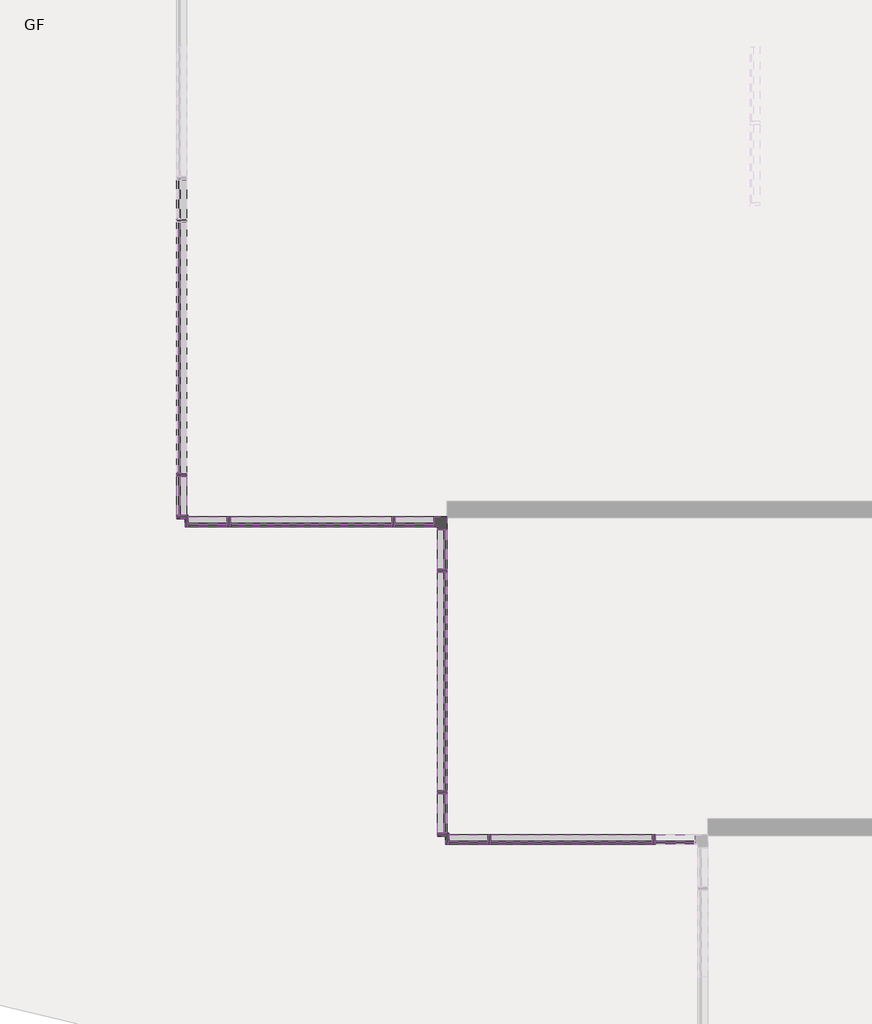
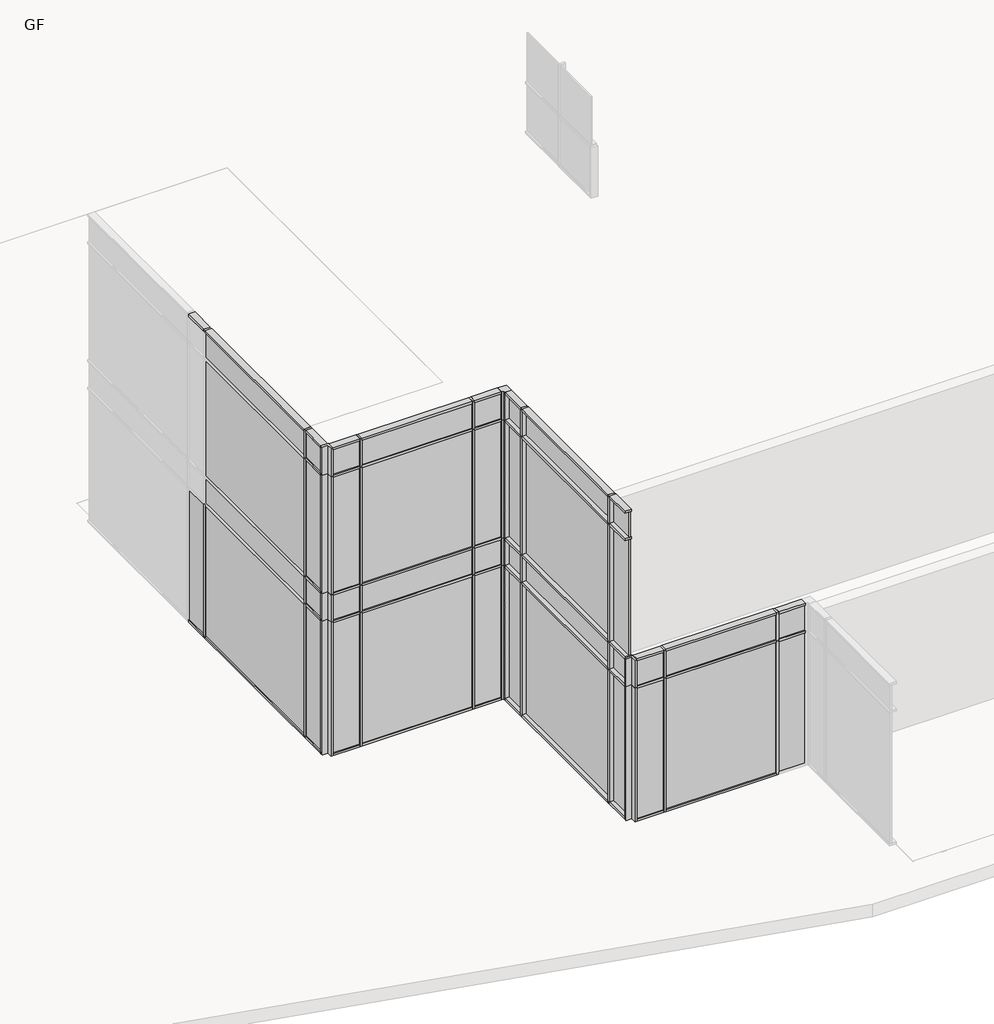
# One storey, part 1 of 23: 82 members, 39 plates.
"""IFC4 building model written with IfcOpenShell, lengths in millimetres."""

from ifc_helpers import new_model, si_unit, origin, place, context, project, spatial, transform, mapped, element, save
from components import l_corner_mullion_l_mullion_1_2b73dffd, l_corner_mullion_l_mullion_1_72fff0f1, l_corner_mullion_l_mullion_1_8c2c0706, l_corner_mullion_l_mullion_1_b99bcffd, rectangular_mullion_50_x_150mm_64d38db8, rectangular_mullion_50_x_150mm_68b3818a, rectangular_mullion_50_x_150mm_0240cd64, rectangular_mullion_50_x_150mm_24ac0887, rectangular_mullion_50_x_150mm_e0b7c4f8, rectangular_mullion_50_x_150mm_9e0f1e24, rectangular_mullion_50_x_150mm_7d543e93, rectangular_mullion_50_x_150mm_edc7ebc1, rectangular_mullion_50_x_150mm_86a57cfb, rectangular_mullion_50_x_150mm_d11e3bb4, rectangular_mullion_50_x_150mm_eae7d4bc, v_corner_mullion_v_mullion_1_f045c5c2, v_corner_mullion_v_mullion_1_ba732962, v_corner_mullion_v_mullion_1_1f1fc5c4, v_corner_mullion_v_mullion_1_6526e4b7, v_corner_mullion_v_mullion_1_71accf86, v_corner_mullion_v_mullion_1_7bbb4fbd, system_panel_glazed_24812111, system_panel_glazed_e5239730, system_panel_glazed_8999bfa8, system_panel_glazed_6b022301, system_panel_glazed_c57c7bc0, system_panel_glazed_b815d245, system_panel_glazed_2828cf0c, system_panel_glazed_a7232eb8, system_panel_glazed_7da84705, system_panel_glazed_c925beaf, system_panel_glazed_536b5d24, system_panel_glazed_50f777d6

model = new_model("IFC4")

# Units and contexts
model_context = context("Model", 3, world=origin())
ifc_project = project(units=[si_unit("LENGTHUNIT", "METRE", prefix="MILLI")], contexts=[model_context])

# Site, building, storey
site = spatial("IfcSite", under=ifc_project)
building = spatial("IfcBuilding", under=site)
storey = spatial("IfcBuildingStorey", under=building, Name="GF", Elevation=900.0)

# Members
placement = place(None, origin())
l_corner_mullion_l_mullion_1_shape = l_corner_mullion_l_mullion_1_2b73dffd(model_context)
element("IfcMember", 1, ObjectType="L Corner Mullion : L Mullion 1", at=placement, inside=storey, context=model_context, shape_type="MappedRepresentation", body=[
    mapped(l_corner_mullion_l_mullion_1_shape, transform((-35612.5865899, -16297.6148653, 8200.0), x_axis=(0.0, 1.0, 0.0), y_axis=(-1.0, 0.0, 0.0), z_axis=(0.0, 0.0, 1.0))),
])
l_corner_mullion_l_mullion_1_2_shape = l_corner_mullion_l_mullion_1_72fff0f1(model_context)
element("IfcMember", 2, ObjectType="L Corner Mullion : L Mullion 1", at=placement, inside=storey, context=model_context, shape_type="MappedRepresentation", body=[
    mapped(l_corner_mullion_l_mullion_1_2_shape, transform((-35612.5865899, -16297.6148653, 7525.0), x_axis=(0.0, 1.0, 0.0), y_axis=(-1.0, 0.0, 0.0), z_axis=(0.0, 0.0, 1.0))),
])
l_corner_mullion_l_mullion_1_3_shape = l_corner_mullion_l_mullion_1_8c2c0706(model_context)
element("IfcMember", 3, ObjectType="L Corner Mullion : L Mullion 1", at=placement, inside=storey, context=model_context, shape_type="MappedRepresentation", body=[
    mapped(l_corner_mullion_l_mullion_1_3_shape, transform((-35612.5865899, -16297.6148653, 4725.0), x_axis=(0.0, 1.0, 0.0), y_axis=(-1.0, 0.0, 0.0), z_axis=(0.0, 0.0, 1.0))),
])
l_corner_mullion_l_mullion_1_4_shape = l_corner_mullion_l_mullion_1_b99bcffd(model_context)
element("IfcMember", 4, ObjectType="L Corner Mullion : L Mullion 1", at=placement, inside=storey, context=model_context, shape_type="MappedRepresentation", body=[
    mapped(l_corner_mullion_l_mullion_1_4_shape, transform((-35612.5865899, -16297.6148653, 4075.0), x_axis=(0.0, 1.0, 0.0), y_axis=(-1.0, 0.0, 0.0), z_axis=(0.0, 0.0, 1.0))),
])
rectangular_mullion_50_x_150mm_shape = rectangular_mullion_50_x_150mm_64d38db8(model_context)
element("IfcMember", 5, ObjectType="Rectangular Mullion : 50 x 150mm", at=placement, inside=storey, context=model_context, shape_type="MappedRepresentation", body=[
    mapped(rectangular_mullion_50_x_150mm_shape, transform((-39512.5865899, -16297.6148653, 8200.0), x_axis=(0.0, 0.0, 1.0), y_axis=(0.0, 1.0, 0.0), z_axis=(-1.0, 0.0, 0.0))),
])
element("IfcMember", 6, ObjectType="Rectangular Mullion : 50 x 150mm", at=placement, inside=storey, context=model_context, shape_type="MappedRepresentation", body=[
    mapped(rectangular_mullion_50_x_150mm_shape, transform((-36337.5865899, -16297.6148653, 8200.0), x_axis=(0.0, 0.0, 1.0), y_axis=(0.0, 1.0, 0.0), z_axis=(-1.0, 0.0, 0.0))),
])
element("IfcMember", 7, ObjectType="Rectangular Mullion : 50 x 150mm", at=placement, inside=storey, context=model_context, shape_type="MappedRepresentation", body=[
    mapped(rectangular_mullion_50_x_150mm_shape, transform((-35612.5865899, -21072.6148653, 8200.0), x_axis=(0.0, 0.0, 1.0), y_axis=(-1.0, 0.0, 0.0), z_axis=(0.0, -1.0, 0.0))),
])
element("IfcMember", 8, ObjectType="Rectangular Mullion : 50 x 150mm", at=placement, inside=storey, context=model_context, shape_type="MappedRepresentation", body=[
    mapped(rectangular_mullion_50_x_150mm_shape, transform((-35512.5865899, -21172.6148653, 4750.0), x_axis=(0.0, 0.0, 1.0), y_axis=(0.0, 1.0, 0.0), z_axis=(-1.0, 0.0, 0.0))),
])
element("IfcMember", 9, ObjectType="Rectangular Mullion : 50 x 150mm", at=placement, inside=storey, context=model_context, shape_type="MappedRepresentation", body=[
    mapped(rectangular_mullion_50_x_150mm_shape, transform((-32337.5865899, -21172.6148653, 4750.0), x_axis=(0.0, 0.0, 1.0), y_axis=(0.0, 1.0, 0.0), z_axis=(-1.0, 0.0, 0.0))),
])
element("IfcMember", 10, ObjectType="Rectangular Mullion : 50 x 150mm", at=placement, inside=storey, context=model_context, shape_type="MappedRepresentation", body=[
    mapped(rectangular_mullion_50_x_150mm_shape, transform((-35612.5865899, -17022.6148653, 8200.0), x_axis=(0.0, 0.0, 1.0), y_axis=(-1.0, 0.0, 0.0), z_axis=(0.0, -1.0, 0.0))),
])
element("IfcMember", 11, ObjectType="Rectangular Mullion : 50 x 150mm", at=placement, inside=storey, context=model_context, shape_type="MappedRepresentation", body=[
    mapped(rectangular_mullion_50_x_150mm_shape, transform((-35737.5865899, -16297.6148653, 900.0), x_axis=(0.0, 0.0, -1.0), y_axis=(0.0, 1.0, 0.0), z_axis=(1.0, 0.0, 0.0))),
])
element("IfcMember", 12, ObjectType="Rectangular Mullion : 50 x 150mm", at=placement, inside=storey, context=model_context, shape_type="MappedRepresentation", body=[
    mapped(rectangular_mullion_50_x_150mm_shape, transform((-38912.5865899, -16297.6148653, 900.0), x_axis=(0.0, 0.0, -1.0), y_axis=(0.0, 1.0, 0.0), z_axis=(1.0, 0.0, 0.0))),
])
element("IfcMember", 13, ObjectType="Rectangular Mullion : 50 x 150mm", at=placement, inside=storey, context=model_context, shape_type="MappedRepresentation", body=[
    mapped(rectangular_mullion_50_x_150mm_shape, transform((-35612.5865899, -16422.6148653, 900.0), x_axis=(0.0, 0.0, -1.0), y_axis=(-1.0, 0.0, 0.0), z_axis=(0.0, 1.0, 0.0))),
])
element("IfcMember", 14, ObjectType="Rectangular Mullion : 50 x 150mm", at=placement, inside=storey, context=model_context, shape_type="MappedRepresentation", body=[
    mapped(rectangular_mullion_50_x_150mm_shape, transform((-34912.5865899, -21172.6148653, 900.0), x_axis=(0.0, 0.0, -1.0), y_axis=(0.0, 1.0, 0.0), z_axis=(1.0, 0.0, 0.0))),
])
element("IfcMember", 15, ObjectType="Rectangular Mullion : 50 x 150mm", at=placement, inside=storey, context=model_context, shape_type="MappedRepresentation", body=[
    mapped(rectangular_mullion_50_x_150mm_shape, transform((-35612.5865899, -20472.6148653, 900.0), x_axis=(0.0, 0.0, -1.0), y_axis=(-1.0, 0.0, 0.0), z_axis=(0.0, 1.0, 0.0))),
])
rectangular_mullion_50_x_150mm_2_shape = rectangular_mullion_50_x_150mm_68b3818a(model_context)
element("IfcMember", 16, ObjectType="Rectangular Mullion : 50 x 150mm", at=placement, inside=storey, context=model_context, shape_type="MappedRepresentation", body=[
    mapped(rectangular_mullion_50_x_150mm_2_shape, transform((-39612.5865899, -15597.6148653, 7525.0), x_axis=(0.0, 0.0, 1.0), y_axis=(1.0, 0.0, 0.0), z_axis=(0.0, 1.0, 0.0))),
])
element("IfcMember", 17, ObjectType="Rectangular Mullion : 50 x 150mm", at=placement, inside=storey, context=model_context, shape_type="MappedRepresentation", body=[
    mapped(rectangular_mullion_50_x_150mm_2_shape, transform((-39612.5865899, -15597.6148653, 4725.0), x_axis=(0.0, 0.0, 1.0), y_axis=(1.0, 0.0, 0.0), z_axis=(0.0, 1.0, 0.0))),
])
element("IfcMember", 18, ObjectType="Rectangular Mullion : 50 x 150mm", at=placement, inside=storey, context=model_context, shape_type="MappedRepresentation", body=[
    mapped(rectangular_mullion_50_x_150mm_2_shape, transform((-39612.5865899, -15597.6148653, 4075.0), x_axis=(0.0, 0.0, 1.0), y_axis=(1.0, 0.0, 0.0), z_axis=(0.0, 1.0, 0.0))),
])
element("IfcMember", 19, ObjectType="Rectangular Mullion : 50 x 150mm", at=placement, inside=storey, context=model_context, shape_type="MappedRepresentation", body=[
    mapped(rectangular_mullion_50_x_150mm_2_shape, transform((-36337.5865899, -16297.6148653, 7525.0), x_axis=(0.0, 0.0, 1.0), y_axis=(0.0, 1.0, 0.0), z_axis=(-1.0, 0.0, 0.0))),
])
element("IfcMember", 20, ObjectType="Rectangular Mullion : 50 x 150mm", at=placement, inside=storey, context=model_context, shape_type="MappedRepresentation", body=[
    mapped(rectangular_mullion_50_x_150mm_2_shape, transform((-39512.5865899, -16297.6148653, 7525.0), x_axis=(0.0, 0.0, 1.0), y_axis=(0.0, 1.0, 0.0), z_axis=(-1.0, 0.0, 0.0))),
])
element("IfcMember", 21, ObjectType="Rectangular Mullion : 50 x 150mm", at=placement, inside=storey, context=model_context, shape_type="MappedRepresentation", body=[
    mapped(rectangular_mullion_50_x_150mm_2_shape, transform((-36337.5865899, -16297.6148653, 4725.0), x_axis=(0.0, 0.0, 1.0), y_axis=(0.0, 1.0, 0.0), z_axis=(-1.0, 0.0, 0.0))),
])
element("IfcMember", 22, ObjectType="Rectangular Mullion : 50 x 150mm", at=placement, inside=storey, context=model_context, shape_type="MappedRepresentation", body=[
    mapped(rectangular_mullion_50_x_150mm_2_shape, transform((-39512.5865899, -16297.6148653, 4725.0), x_axis=(0.0, 0.0, 1.0), y_axis=(0.0, 1.0, 0.0), z_axis=(-1.0, 0.0, 0.0))),
])
element("IfcMember", 23, ObjectType="Rectangular Mullion : 50 x 150mm", at=placement, inside=storey, context=model_context, shape_type="MappedRepresentation", body=[
    mapped(rectangular_mullion_50_x_150mm_2_shape, transform((-36337.5865899, -16297.6148653, 4075.0), x_axis=(0.0, 0.0, 1.0), y_axis=(0.0, 1.0, 0.0), z_axis=(-1.0, 0.0, 0.0))),
])
element("IfcMember", 24, ObjectType="Rectangular Mullion : 50 x 150mm", at=placement, inside=storey, context=model_context, shape_type="MappedRepresentation", body=[
    mapped(rectangular_mullion_50_x_150mm_2_shape, transform((-39512.5865899, -16297.6148653, 4075.0), x_axis=(0.0, 0.0, 1.0), y_axis=(0.0, 1.0, 0.0), z_axis=(-1.0, 0.0, 0.0))),
])
element("IfcMember", 25, ObjectType="Rectangular Mullion : 50 x 150mm", at=placement, inside=storey, context=model_context, shape_type="MappedRepresentation", body=[
    mapped(rectangular_mullion_50_x_150mm_2_shape, transform((-32337.5865899, -21172.6148653, 4075.0), x_axis=(0.0, 0.0, 1.0), y_axis=(0.0, 1.0, 0.0), z_axis=(-1.0, 0.0, 0.0))),
])
element("IfcMember", 26, ObjectType="Rectangular Mullion : 50 x 150mm", at=placement, inside=storey, context=model_context, shape_type="MappedRepresentation", body=[
    mapped(rectangular_mullion_50_x_150mm_2_shape, transform((-35612.5865899, -17022.6148653, 4725.0), x_axis=(0.0, 0.0, 1.0), y_axis=(-1.0, 0.0, 0.0), z_axis=(0.0, -1.0, 0.0))),
])
element("IfcMember", 27, ObjectType="Rectangular Mullion : 50 x 150mm", at=placement, inside=storey, context=model_context, shape_type="MappedRepresentation", body=[
    mapped(rectangular_mullion_50_x_150mm_2_shape, transform((-35612.5865899, -17022.6148653, 4075.0), x_axis=(0.0, 0.0, 1.0), y_axis=(-1.0, 0.0, 0.0), z_axis=(0.0, -1.0, 0.0))),
])
element("IfcMember", 28, ObjectType="Rectangular Mullion : 50 x 150mm", at=placement, inside=storey, context=model_context, shape_type="MappedRepresentation", body=[
    mapped(rectangular_mullion_50_x_150mm_2_shape, transform((-35512.5865899, -21172.6148653, 4075.0), x_axis=(0.0, 0.0, 1.0), y_axis=(0.0, 1.0, 0.0), z_axis=(-1.0, 0.0, 0.0))),
])
element("IfcMember", 29, ObjectType="Rectangular Mullion : 50 x 150mm", at=placement, inside=storey, context=model_context, shape_type="MappedRepresentation", body=[
    mapped(rectangular_mullion_50_x_150mm_2_shape, transform((-35612.5865899, -21072.6148653, 4075.0), x_axis=(0.0, 0.0, 1.0), y_axis=(-1.0, 0.0, 0.0), z_axis=(0.0, -1.0, 0.0))),
])
element("IfcMember", 30, ObjectType="Rectangular Mullion : 50 x 150mm", at=placement, inside=storey, context=model_context, shape_type="MappedRepresentation", body=[
    mapped(rectangular_mullion_50_x_150mm_2_shape, transform((-35612.5865899, -21072.6148653, 4725.0), x_axis=(0.0, 0.0, 1.0), y_axis=(-1.0, 0.0, 0.0), z_axis=(0.0, -1.0, 0.0))),
])
element("IfcMember", 31, ObjectType="Rectangular Mullion : 50 x 150mm", at=placement, inside=storey, context=model_context, shape_type="MappedRepresentation", body=[
    mapped(rectangular_mullion_50_x_150mm_2_shape, transform((-35612.5865899, -17022.6148653, 7525.0), x_axis=(0.0, 0.0, 1.0), y_axis=(-1.0, 0.0, 0.0), z_axis=(0.0, -1.0, 0.0))),
])
element("IfcMember", 32, ObjectType="Rectangular Mullion : 50 x 150mm", at=placement, inside=storey, context=model_context, shape_type="MappedRepresentation", body=[
    mapped(rectangular_mullion_50_x_150mm_2_shape, transform((-35612.5865899, -21072.6148653, 7525.0), x_axis=(0.0, 0.0, 1.0), y_axis=(-1.0, 0.0, 0.0), z_axis=(0.0, -1.0, 0.0))),
])
rectangular_mullion_50_x_150mm_3_shape = rectangular_mullion_50_x_150mm_0240cd64(model_context)
element("IfcMember", 33, ObjectType="Rectangular Mullion : 50 x 150mm", at=placement, inside=storey, context=model_context, shape_type="MappedRepresentation", body=[
    mapped(rectangular_mullion_50_x_150mm_3_shape, transform((-38862.5865899, -16297.6148653, 8200.0), x_axis=(0.0, 0.0, 1.0), y_axis=(0.0, 1.0, 0.0), z_axis=(-1.0, 0.0, 0.0))),
])
element("IfcMember", 34, ObjectType="Rectangular Mullion : 50 x 150mm", at=placement, inside=storey, context=model_context, shape_type="MappedRepresentation", body=[
    mapped(rectangular_mullion_50_x_150mm_3_shape, transform((-34862.5865899, -21172.6148653, 4750.0), x_axis=(0.0, 0.0, 1.0), y_axis=(0.0, 1.0, 0.0), z_axis=(-1.0, 0.0, 0.0))),
])
element("IfcMember", 35, ObjectType="Rectangular Mullion : 50 x 150mm", at=placement, inside=storey, context=model_context, shape_type="MappedRepresentation", body=[
    mapped(rectangular_mullion_50_x_150mm_3_shape, transform((-36387.5865899, -16297.6148653, 900.0), x_axis=(0.0, 0.0, -1.0), y_axis=(0.0, 1.0, 0.0), z_axis=(1.0, 0.0, 0.0))),
])
element("IfcMember", 36, ObjectType="Rectangular Mullion : 50 x 150mm", at=placement, inside=storey, context=model_context, shape_type="MappedRepresentation", body=[
    mapped(rectangular_mullion_50_x_150mm_3_shape, transform((-32387.5865899, -21172.6148653, 900.0), x_axis=(0.0, 0.0, -1.0), y_axis=(0.0, 1.0, 0.0), z_axis=(1.0, 0.0, 0.0))),
])
rectangular_mullion_50_x_150mm_4_shape = rectangular_mullion_50_x_150mm_24ac0887(model_context)
element("IfcMember", 37, ObjectType="Rectangular Mullion : 50 x 150mm", at=placement, inside=storey, context=model_context, shape_type="MappedRepresentation", body=[
    mapped(rectangular_mullion_50_x_150mm_4_shape, transform((-35612.5865899, -20422.6148653, 8200.0), x_axis=(0.0, 0.0, 1.0), y_axis=(-1.0, 0.0, 0.0), z_axis=(0.0, -1.0, 0.0))),
])
element("IfcMember", 38, ObjectType="Rectangular Mullion : 50 x 150mm", at=placement, inside=storey, context=model_context, shape_type="MappedRepresentation", body=[
    mapped(rectangular_mullion_50_x_150mm_4_shape, transform((-35612.5865899, -17072.6148653, 900.0), x_axis=(0.0, 0.0, -1.0), y_axis=(-1.0, 0.0, 0.0), z_axis=(0.0, 1.0, 0.0))),
])
element("IfcMember", 39, ObjectType="Rectangular Mullion : 50 x 150mm", at=placement, inside=storey, context=model_context, shape_type="MappedRepresentation", body=[
    mapped(rectangular_mullion_50_x_150mm_shape, transform((-39612.5865899, -15597.6148653, 8200.0), x_axis=(0.0, 0.0, 1.0), y_axis=(1.0, 0.0, 0.0), z_axis=(0.0, 1.0, 0.0))),
])
element("IfcMember", 40, ObjectType="Rectangular Mullion : 50 x 150mm", at=placement, inside=storey, context=model_context, shape_type="MappedRepresentation", body=[
    mapped(rectangular_mullion_50_x_150mm_shape, transform((-39612.5865899, -11047.6148653, 8200.0), x_axis=(0.0, 0.0, 1.0), y_axis=(1.0, 0.0, 0.0), z_axis=(0.0, 1.0, 0.0))),
])
element("IfcMember", 41, ObjectType="Rectangular Mullion : 50 x 150mm", at=placement, inside=storey, context=model_context, shape_type="MappedRepresentation", body=[
    mapped(rectangular_mullion_50_x_150mm_shape, transform((-39612.5865899, -16197.6148653, 900.0), x_axis=(0.0, 0.0, -1.0), y_axis=(1.0, 0.0, 0.0), z_axis=(0.0, -1.0, 0.0))),
])
element("IfcMember", 42, ObjectType="Rectangular Mullion : 50 x 150mm", at=placement, inside=storey, context=model_context, shape_type="MappedRepresentation", body=[
    mapped(rectangular_mullion_50_x_150mm_shape, transform((-39612.5865899, -11647.6148653, 900.0), x_axis=(0.0, 0.0, -1.0), y_axis=(1.0, 0.0, 0.0), z_axis=(0.0, -1.0, 0.0))),
])
rectangular_mullion_50_x_150mm_5_shape = rectangular_mullion_50_x_150mm_e0b7c4f8(model_context)
element("IfcMember", 43, ObjectType="Rectangular Mullion : 50 x 150mm", at=placement, inside=storey, context=model_context, shape_type="MappedRepresentation", body=[
    mapped(rectangular_mullion_50_x_150mm_5_shape, transform((-39612.5865899, -15547.6148653, 900.0), x_axis=(0.0, 0.0, -1.0), y_axis=(1.0, 0.0, 0.0), z_axis=(0.0, -1.0, 0.0))),
])
element("IfcMember", 44, ObjectType="Rectangular Mullion : 50 x 150mm", at=placement, inside=storey, context=model_context, shape_type="MappedRepresentation", body=[
    mapped(rectangular_mullion_50_x_150mm_5_shape, transform((-39612.5865899, -11697.6148653, 8200.0), x_axis=(0.0, 0.0, 1.0), y_axis=(1.0, 0.0, 0.0), z_axis=(0.0, 1.0, 0.0))),
])
rectangular_mullion_50_x_150mm_6_shape = rectangular_mullion_50_x_150mm_9e0f1e24(model_context)
element("IfcMember", 45, ObjectType="Rectangular Mullion : 50 x 150mm", at=placement, inside=storey, context=model_context, shape_type="MappedRepresentation", body=[
    mapped(rectangular_mullion_50_x_150mm_6_shape, transform((-39612.5865899, -15572.6148653, 7525.0), x_axis=(0.0, 1.0, 0.0), y_axis=(1.0, 0.0, 0.0), z_axis=(0.0, 0.0, -1.0))),
])
element("IfcMember", 46, ObjectType="Rectangular Mullion : 50 x 150mm", at=placement, inside=storey, context=model_context, shape_type="MappedRepresentation", body=[
    mapped(rectangular_mullion_50_x_150mm_6_shape, transform((-36362.5865899, -16297.6148653, 7525.0), x_axis=(-1.0, 0.0, 0.0), y_axis=(0.0, 1.0, 0.0), z_axis=(0.0, 0.0, -1.0))),
])
element("IfcMember", 47, ObjectType="Rectangular Mullion : 50 x 150mm", at=placement, inside=storey, context=model_context, shape_type="MappedRepresentation", body=[
    mapped(rectangular_mullion_50_x_150mm_6_shape, transform((-38887.5865899, -16297.6148653, 7525.0), x_axis=(-1.0, 0.0, 0.0), y_axis=(0.0, 1.0, 0.0), z_axis=(0.0, 0.0, -1.0))),
])
element("IfcMember", 48, ObjectType="Rectangular Mullion : 50 x 150mm", at=placement, inside=storey, context=model_context, shape_type="MappedRepresentation", body=[
    mapped(rectangular_mullion_50_x_150mm_6_shape, transform((-34887.5865899, -21172.6148653, 4075.0), x_axis=(-1.0, 0.0, 0.0), y_axis=(0.0, 1.0, 0.0), z_axis=(0.0, 0.0, -1.0))),
])
element("IfcMember", 49, ObjectType="Rectangular Mullion : 50 x 150mm", at=placement, inside=storey, context=model_context, shape_type="MappedRepresentation", body=[
    mapped(rectangular_mullion_50_x_150mm_6_shape, transform((-32362.5865899, -21172.6148653, 4075.0), x_axis=(-1.0, 0.0, 0.0), y_axis=(0.0, 1.0, 0.0), z_axis=(0.0, 0.0, -1.0))),
])
element("IfcMember", 50, ObjectType="Rectangular Mullion : 50 x 150mm", at=placement, inside=storey, context=model_context, shape_type="MappedRepresentation", body=[
    mapped(rectangular_mullion_50_x_150mm_6_shape, transform((-35612.5865899, -17047.6148653, 7525.0), x_axis=(0.0, -1.0, 0.0), y_axis=(-1.0, 0.0, 0.0), z_axis=(0.0, 0.0, -1.0))),
])
element("IfcMember", 51, ObjectType="Rectangular Mullion : 50 x 150mm", at=placement, inside=storey, context=model_context, shape_type="MappedRepresentation", body=[
    mapped(rectangular_mullion_50_x_150mm_6_shape, transform((-35612.5865899, -20447.6148653, 7525.0), x_axis=(0.0, -1.0, 0.0), y_axis=(-1.0, 0.0, 0.0), z_axis=(0.0, 0.0, -1.0))),
])
rectangular_mullion_50_x_150mm_7_shape = rectangular_mullion_50_x_150mm_7d543e93(model_context)
element("IfcMember", 52, ObjectType="Rectangular Mullion : 50 x 150mm", at=placement, inside=storey, context=model_context, shape_type="MappedRepresentation", body=[
    mapped(rectangular_mullion_50_x_150mm_7_shape, transform((-39612.5865899, -15572.6148653, 4075.0), x_axis=(0.0, 1.0, 0.0), y_axis=(1.0, 0.0, 0.0), z_axis=(0.0, 0.0, -1.0))),
])
element("IfcMember", 53, ObjectType="Rectangular Mullion : 50 x 150mm", at=placement, inside=storey, context=model_context, shape_type="MappedRepresentation", body=[
    mapped(rectangular_mullion_50_x_150mm_7_shape, transform((-36362.5865899, -16297.6148653, 4075.0), x_axis=(-1.0, 0.0, 0.0), y_axis=(0.0, 1.0, 0.0), z_axis=(0.0, 0.0, -1.0))),
])
element("IfcMember", 54, ObjectType="Rectangular Mullion : 50 x 150mm", at=placement, inside=storey, context=model_context, shape_type="MappedRepresentation", body=[
    mapped(rectangular_mullion_50_x_150mm_7_shape, transform((-38887.5865899, -16297.6148653, 4075.0), x_axis=(-1.0, 0.0, 0.0), y_axis=(0.0, 1.0, 0.0), z_axis=(0.0, 0.0, -1.0))),
])
element("IfcMember", 55, ObjectType="Rectangular Mullion : 50 x 150mm", at=placement, inside=storey, context=model_context, shape_type="MappedRepresentation", body=[
    mapped(rectangular_mullion_50_x_150mm_7_shape, transform((-35612.5865899, -20447.6148653, 4075.0), x_axis=(0.0, -1.0, 0.0), y_axis=(-1.0, 0.0, 0.0), z_axis=(0.0, 0.0, -1.0))),
])
element("IfcMember", 56, ObjectType="Rectangular Mullion : 50 x 150mm", at=placement, inside=storey, context=model_context, shape_type="MappedRepresentation", body=[
    mapped(rectangular_mullion_50_x_150mm_7_shape, transform((-35612.5865899, -17047.6148653, 4075.0), x_axis=(0.0, -1.0, 0.0), y_axis=(-1.0, 0.0, 0.0), z_axis=(0.0, 0.0, -1.0))),
])
rectangular_mullion_50_x_150mm_8_shape = rectangular_mullion_50_x_150mm_edc7ebc1(model_context)
element("IfcMember", 57, ObjectType="Rectangular Mullion : 50 x 150mm", at=placement, inside=storey, context=model_context, shape_type="MappedRepresentation", body=[
    mapped(rectangular_mullion_50_x_150mm_8_shape, transform((-38862.5865899, -16297.6148653, 7525.0), x_axis=(0.0, 0.0, 1.0), y_axis=(0.0, 1.0, 0.0), z_axis=(-1.0, 0.0, 0.0))),
])
element("IfcMember", 58, ObjectType="Rectangular Mullion : 50 x 150mm", at=placement, inside=storey, context=model_context, shape_type="MappedRepresentation", body=[
    mapped(rectangular_mullion_50_x_150mm_8_shape, transform((-38862.5865899, -16297.6148653, 4725.0), x_axis=(0.0, 0.0, 1.0), y_axis=(0.0, 1.0, 0.0), z_axis=(-1.0, 0.0, 0.0))),
])
element("IfcMember", 59, ObjectType="Rectangular Mullion : 50 x 150mm", at=placement, inside=storey, context=model_context, shape_type="MappedRepresentation", body=[
    mapped(rectangular_mullion_50_x_150mm_8_shape, transform((-38862.5865899, -16297.6148653, 4075.0), x_axis=(0.0, 0.0, 1.0), y_axis=(0.0, 1.0, 0.0), z_axis=(-1.0, 0.0, 0.0))),
])
element("IfcMember", 60, ObjectType="Rectangular Mullion : 50 x 150mm", at=placement, inside=storey, context=model_context, shape_type="MappedRepresentation", body=[
    mapped(rectangular_mullion_50_x_150mm_8_shape, transform((-34862.5865899, -21172.6148653, 4075.0), x_axis=(0.0, 0.0, 1.0), y_axis=(0.0, 1.0, 0.0), z_axis=(-1.0, 0.0, 0.0))),
])
rectangular_mullion_50_x_150mm_9_shape = rectangular_mullion_50_x_150mm_86a57cfb(model_context)
element("IfcMember", 61, ObjectType="Rectangular Mullion : 50 x 150mm", at=placement, inside=storey, context=model_context, shape_type="MappedRepresentation", body=[
    mapped(rectangular_mullion_50_x_150mm_9_shape, transform((-35612.5865899, -20422.6148653, 4075.0), x_axis=(0.0, 0.0, 1.0), y_axis=(-1.0, 0.0, 0.0), z_axis=(0.0, -1.0, 0.0))),
])
element("IfcMember", 62, ObjectType="Rectangular Mullion : 50 x 150mm", at=placement, inside=storey, context=model_context, shape_type="MappedRepresentation", body=[
    mapped(rectangular_mullion_50_x_150mm_9_shape, transform((-35612.5865899, -20422.6148653, 4725.0), x_axis=(0.0, 0.0, 1.0), y_axis=(-1.0, 0.0, 0.0), z_axis=(0.0, -1.0, 0.0))),
])
element("IfcMember", 63, ObjectType="Rectangular Mullion : 50 x 150mm", at=placement, inside=storey, context=model_context, shape_type="MappedRepresentation", body=[
    mapped(rectangular_mullion_50_x_150mm_9_shape, transform((-35612.5865899, -20422.6148653, 7525.0), x_axis=(0.0, 0.0, 1.0), y_axis=(-1.0, 0.0, 0.0), z_axis=(0.0, -1.0, 0.0))),
])
rectangular_mullion_50_x_150mm_10_shape = rectangular_mullion_50_x_150mm_d11e3bb4(model_context)
element("IfcMember", 64, ObjectType="Rectangular Mullion : 50 x 150mm", at=placement, inside=storey, context=model_context, shape_type="MappedRepresentation", body=[
    mapped(rectangular_mullion_50_x_150mm_10_shape, transform((-39612.5865899, -15572.6148653, 4725.0), x_axis=(0.0, 1.0, 0.0), y_axis=(1.0, 0.0, 0.0), z_axis=(0.0, 0.0, -1.0))),
])
element("IfcMember", 65, ObjectType="Rectangular Mullion : 50 x 150mm", at=placement, inside=storey, context=model_context, shape_type="MappedRepresentation", body=[
    mapped(rectangular_mullion_50_x_150mm_10_shape, transform((-36362.5865899, -16297.6148653, 4725.0), x_axis=(-1.0, 0.0, 0.0), y_axis=(0.0, 1.0, 0.0), z_axis=(0.0, 0.0, -1.0))),
])
element("IfcMember", 66, ObjectType="Rectangular Mullion : 50 x 150mm", at=placement, inside=storey, context=model_context, shape_type="MappedRepresentation", body=[
    mapped(rectangular_mullion_50_x_150mm_10_shape, transform((-38887.5865899, -16297.6148653, 4725.0), x_axis=(-1.0, 0.0, 0.0), y_axis=(0.0, 1.0, 0.0), z_axis=(0.0, 0.0, -1.0))),
])
element("IfcMember", 67, ObjectType="Rectangular Mullion : 50 x 150mm", at=placement, inside=storey, context=model_context, shape_type="MappedRepresentation", body=[
    mapped(rectangular_mullion_50_x_150mm_10_shape, transform((-35612.5865899, -20447.6148653, 4725.0), x_axis=(0.0, -1.0, 0.0), y_axis=(-1.0, 0.0, 0.0), z_axis=(0.0, 0.0, -1.0))),
])
element("IfcMember", 68, ObjectType="Rectangular Mullion : 50 x 150mm", at=placement, inside=storey, context=model_context, shape_type="MappedRepresentation", body=[
    mapped(rectangular_mullion_50_x_150mm_10_shape, transform((-35612.5865899, -17047.6148653, 4725.0), x_axis=(0.0, -1.0, 0.0), y_axis=(-1.0, 0.0, 0.0), z_axis=(0.0, 0.0, -1.0))),
])
rectangular_mullion_50_x_150mm_11_shape = rectangular_mullion_50_x_150mm_eae7d4bc(model_context)
element("IfcMember", 69, ObjectType="Rectangular Mullion : 50 x 150mm", at=placement, inside=storey, context=model_context, shape_type="MappedRepresentation", body=[
    mapped(rectangular_mullion_50_x_150mm_11_shape, transform((-39612.5865899, -15572.6148653, 900.0), x_axis=(0.0, 1.0, 0.0), y_axis=(1.0, 0.0, 0.0), z_axis=(0.0, 0.0, -1.0))),
])
element("IfcMember", 70, ObjectType="Rectangular Mullion : 50 x 150mm", at=placement, inside=storey, context=model_context, shape_type="MappedRepresentation", body=[
    mapped(rectangular_mullion_50_x_150mm_11_shape, transform((-39612.5865899, -11672.6148653, 900.0), x_axis=(0.0, 1.0, 0.0), y_axis=(1.0, 0.0, 0.0), z_axis=(0.0, 0.0, -1.0))),
])
element("IfcMember", 71, ObjectType="Rectangular Mullion : 50 x 150mm", at=placement, inside=storey, context=model_context, shape_type="MappedRepresentation", body=[
    mapped(rectangular_mullion_50_x_150mm_11_shape, transform((-38887.5865899, -16297.6148653, 900.0), x_axis=(-1.0, 0.0, 0.0), y_axis=(0.0, 1.0, 0.0), z_axis=(0.0, 0.0, -1.0))),
])
element("IfcMember", 72, ObjectType="Rectangular Mullion : 50 x 150mm", at=placement, inside=storey, context=model_context, shape_type="MappedRepresentation", body=[
    mapped(rectangular_mullion_50_x_150mm_11_shape, transform((-36362.5865899, -16297.6148653, 900.0), x_axis=(-1.0, 0.0, 0.0), y_axis=(0.0, 1.0, 0.0), z_axis=(0.0, 0.0, -1.0))),
])
element("IfcMember", 73, ObjectType="Rectangular Mullion : 50 x 150mm", at=placement, inside=storey, context=model_context, shape_type="MappedRepresentation", body=[
    mapped(rectangular_mullion_50_x_150mm_11_shape, transform((-34887.5865899, -21172.6148653, 900.0), x_axis=(-1.0, 0.0, 0.0), y_axis=(0.0, 1.0, 0.0), z_axis=(0.0, 0.0, -1.0))),
])
element("IfcMember", 74, ObjectType="Rectangular Mullion : 50 x 150mm", at=placement, inside=storey, context=model_context, shape_type="MappedRepresentation", body=[
    mapped(rectangular_mullion_50_x_150mm_11_shape, transform((-32362.5865899, -21172.6148653, 900.0), x_axis=(-1.0, 0.0, 0.0), y_axis=(0.0, 1.0, 0.0), z_axis=(0.0, 0.0, -1.0))),
])
element("IfcMember", 75, ObjectType="Rectangular Mullion : 50 x 150mm", at=placement, inside=storey, context=model_context, shape_type="MappedRepresentation", body=[
    mapped(rectangular_mullion_50_x_150mm_11_shape, transform((-35612.5865899, -20447.6148653, 900.0), x_axis=(0.0, -1.0, 0.0), y_axis=(-1.0, 0.0, 0.0), z_axis=(0.0, 0.0, -1.0))),
])
element("IfcMember", 76, ObjectType="Rectangular Mullion : 50 x 150mm", at=placement, inside=storey, context=model_context, shape_type="MappedRepresentation", body=[
    mapped(rectangular_mullion_50_x_150mm_11_shape, transform((-35612.5865899, -17047.6148653, 900.0), x_axis=(0.0, -1.0, 0.0), y_axis=(-1.0, 0.0, 0.0), z_axis=(0.0, 0.0, -1.0))),
])
v_corner_mullion_v_mullion_1_shape = v_corner_mullion_v_mullion_1_f045c5c2(model_context)
element("IfcMember", 77, ObjectType="V Corner Mullion : V Mullion 1", at=placement, inside=storey, context=model_context, shape_type="MappedRepresentation", body=[
    mapped(v_corner_mullion_v_mullion_1_shape, transform((-39612.5865899, -16297.6148653, 7525.0), x_axis=(-1.0, 0.0, 0.0), y_axis=(0.0, 1.0, 0.0), z_axis=(0.0, 0.0, -1.0))),
])
v_corner_mullion_v_mullion_1_2_shape = v_corner_mullion_v_mullion_1_ba732962(model_context)
element("IfcMember", 78, ObjectType="V Corner Mullion : V Mullion 1", at=placement, inside=storey, context=model_context, shape_type="MappedRepresentation", body=[
    mapped(v_corner_mullion_v_mullion_1_2_shape, transform((-39612.5865899, -16297.6148653, 4075.0), x_axis=(-1.0, 0.0, 0.0), y_axis=(0.0, 1.0, 0.0), z_axis=(0.0, 0.0, -1.0))),
])
v_corner_mullion_v_mullion_1_3_shape = v_corner_mullion_v_mullion_1_1f1fc5c4(model_context)
element("IfcMember", 79, ObjectType="V Corner Mullion : V Mullion 1", at=placement, inside=storey, context=model_context, shape_type="MappedRepresentation", body=[
    mapped(v_corner_mullion_v_mullion_1_3_shape, transform((-39612.5865899, -16297.6148653, 4725.0), x_axis=(-1.0, 0.0, 0.0), y_axis=(0.0, 1.0, 0.0), z_axis=(0.0, 0.0, -1.0))),
])
v_corner_mullion_v_mullion_1_4_shape = v_corner_mullion_v_mullion_1_6526e4b7(model_context)
element("IfcMember", 80, ObjectType="V Corner Mullion : V Mullion 1", at=placement, inside=storey, context=model_context, shape_type="MappedRepresentation", body=[
    mapped(v_corner_mullion_v_mullion_1_4_shape, transform((-35612.5865899, -21172.6148653, 900.0), x_axis=(0.0, -1.0, 0.0), y_axis=(-1.0, 0.0, 0.0), z_axis=(0.0, 0.0, -1.0))),
])
v_corner_mullion_v_mullion_1_5_shape = v_corner_mullion_v_mullion_1_71accf86(model_context)
element("IfcMember", 81, ObjectType="V Corner Mullion : V Mullion 1", at=placement, inside=storey, context=model_context, shape_type="MappedRepresentation", body=[
    mapped(v_corner_mullion_v_mullion_1_5_shape, transform((-35612.5865899, -21172.6148653, 4075.0), x_axis=(0.0, -1.0, 0.0), y_axis=(-1.0, 0.0, 0.0), z_axis=(0.0, 0.0, -1.0))),
])
v_corner_mullion_v_mullion_1_6_shape = v_corner_mullion_v_mullion_1_7bbb4fbd(model_context)
element("IfcMember", 82, ObjectType="V Corner Mullion : V Mullion 1", at=placement, inside=storey, context=model_context, shape_type="MappedRepresentation", body=[
    mapped(v_corner_mullion_v_mullion_1_6_shape, transform((-39612.5865899, -16297.6148653, 900.0), x_axis=(-1.0, 0.0, 0.0), y_axis=(0.0, 1.0, 0.0), z_axis=(0.0, 0.0, -1.0))),
])

# Plates
system_panel_glazed_shape = system_panel_glazed_24812111(model_context)
element("IfcPlate", 83, ObjectType="System Panel : Glazed", at=placement, inside=storey, context=model_context, shape_type="MappedRepresentation", body=[
    mapped(system_panel_glazed_shape, transform((-39612.5865899, -15897.6148653, 7550.0), x_axis=(0.0, 1.0, 0.0), y_axis=(-1.0, 0.0, 0.0), z_axis=(0.0, 0.0, 1.0))),
])
element("IfcPlate", 84, ObjectType="System Panel : Glazed", at=placement, inside=storey, context=model_context, shape_type="MappedRepresentation", body=[
    mapped(system_panel_glazed_shape, transform((-39612.5865899, -15897.6148653, 4100.0), x_axis=(0.0, 1.0, 0.0), y_axis=(-1.0, 0.0, 0.0), z_axis=(0.0, 0.0, 1.0))),
])
element("IfcPlate", 85, ObjectType="System Panel : Glazed", at=placement, inside=storey, context=model_context, shape_type="MappedRepresentation", body=[
    mapped(system_panel_glazed_shape, transform((-36037.5865899, -16297.6148653, 7550.0), x_axis=(-1.0, 0.0, 0.0), y_axis=(0.0, -1.0, 0.0), z_axis=(0.0, 0.0, 1.0))),
])
element("IfcPlate", 86, ObjectType="System Panel : Glazed", at=placement, inside=storey, context=model_context, shape_type="MappedRepresentation", body=[
    mapped(system_panel_glazed_shape, transform((-39212.5865899, -16297.6148653, 7550.0), x_axis=(-1.0, 0.0, 0.0), y_axis=(0.0, -1.0, 0.0), z_axis=(0.0, 0.0, 1.0))),
])
element("IfcPlate", 87, ObjectType="System Panel : Glazed", at=placement, inside=storey, context=model_context, shape_type="MappedRepresentation", body=[
    mapped(system_panel_glazed_shape, transform((-36037.5865899, -16297.6148653, 4100.0), x_axis=(-1.0, 0.0, 0.0), y_axis=(0.0, -1.0, 0.0), z_axis=(0.0, 0.0, 1.0))),
])
element("IfcPlate", 88, ObjectType="System Panel : Glazed", at=placement, inside=storey, context=model_context, shape_type="MappedRepresentation", body=[
    mapped(system_panel_glazed_shape, transform((-39212.5865899, -16297.6148653, 4100.0), x_axis=(-1.0, 0.0, 0.0), y_axis=(0.0, -1.0, 0.0), z_axis=(0.0, 0.0, 1.0))),
])
element("IfcPlate", 89, ObjectType="System Panel : Glazed", at=placement, inside=storey, context=model_context, shape_type="MappedRepresentation", body=[
    mapped(system_panel_glazed_shape, transform((-32037.5865899, -21172.6148653, 4100.0), x_axis=(-1.0, 0.0, 0.0), y_axis=(0.0, -1.0, 0.0), z_axis=(0.0, 0.0, 1.0))),
])
element("IfcPlate", 90, ObjectType="System Panel : Glazed", at=placement, inside=storey, context=model_context, shape_type="MappedRepresentation", body=[
    mapped(system_panel_glazed_shape, transform((-35612.5865899, -16722.6148653, 4100.0), x_axis=(0.0, -1.0, 0.0), y_axis=(1.0, 0.0, 0.0), z_axis=(0.0, 0.0, 1.0))),
])
element("IfcPlate", 91, ObjectType="System Panel : Glazed", at=placement, inside=storey, context=model_context, shape_type="MappedRepresentation", body=[
    mapped(system_panel_glazed_shape, transform((-35212.5865899, -21172.6148653, 4100.0), x_axis=(-1.0, 0.0, 0.0), y_axis=(0.0, -1.0, 0.0), z_axis=(0.0, 0.0, 1.0))),
])
element("IfcPlate", 92, ObjectType="System Panel : Glazed", at=placement, inside=storey, context=model_context, shape_type="MappedRepresentation", body=[
    mapped(system_panel_glazed_shape, transform((-35612.5865899, -20772.6148653, 4100.0), x_axis=(0.0, -1.0, 0.0), y_axis=(1.0, 0.0, 0.0), z_axis=(0.0, 0.0, 1.0))),
])
element("IfcPlate", 93, ObjectType="System Panel : Glazed", at=placement, inside=storey, context=model_context, shape_type="MappedRepresentation", body=[
    mapped(system_panel_glazed_shape, transform((-35612.5865899, -16722.6148653, 7550.0), x_axis=(0.0, -1.0, 0.0), y_axis=(1.0, 0.0, 0.0), z_axis=(0.0, 0.0, 1.0))),
])
element("IfcPlate", 94, ObjectType="System Panel : Glazed", at=placement, inside=storey, context=model_context, shape_type="MappedRepresentation", body=[
    mapped(system_panel_glazed_shape, transform((-35612.5865899, -20772.6148653, 7550.0), x_axis=(0.0, -1.0, 0.0), y_axis=(1.0, 0.0, 0.0), z_axis=(0.0, 0.0, 1.0))),
])
system_panel_glazed_2_shape = system_panel_glazed_e5239730(model_context)
element("IfcPlate", 95, ObjectType="System Panel : Glazed", at=placement, inside=storey, context=model_context, shape_type="MappedRepresentation", body=[
    mapped(system_panel_glazed_2_shape, transform((-39612.5865899, -15897.6148653, 4750.0), x_axis=(0.0, 1.0, 0.0), y_axis=(-1.0, 0.0, 0.0), z_axis=(0.0, 0.0, 1.0))),
])
element("IfcPlate", 96, ObjectType="System Panel : Glazed", at=placement, inside=storey, context=model_context, shape_type="MappedRepresentation", body=[
    mapped(system_panel_glazed_2_shape, transform((-36037.5865899, -16297.6148653, 4750.0), x_axis=(-1.0, 0.0, 0.0), y_axis=(0.0, -1.0, 0.0), z_axis=(0.0, 0.0, 1.0))),
])
element("IfcPlate", 97, ObjectType="System Panel : Glazed", at=placement, inside=storey, context=model_context, shape_type="MappedRepresentation", body=[
    mapped(system_panel_glazed_2_shape, transform((-39212.5865899, -16297.6148653, 4750.0), x_axis=(-1.0, 0.0, 0.0), y_axis=(0.0, -1.0, 0.0), z_axis=(0.0, 0.0, 1.0))),
])
element("IfcPlate", 98, ObjectType="System Panel : Glazed", at=placement, inside=storey, context=model_context, shape_type="MappedRepresentation", body=[
    mapped(system_panel_glazed_2_shape, transform((-35612.5865899, -16722.6148653, 4750.0), x_axis=(0.0, -1.0, 0.0), y_axis=(1.0, 0.0, 0.0), z_axis=(0.0, 0.0, 1.0))),
])
element("IfcPlate", 99, ObjectType="System Panel : Glazed", at=placement, inside=storey, context=model_context, shape_type="MappedRepresentation", body=[
    mapped(system_panel_glazed_2_shape, transform((-35612.5865899, -20772.6148653, 4750.0), x_axis=(0.0, -1.0, 0.0), y_axis=(1.0, 0.0, 0.0), z_axis=(0.0, 0.0, 1.0))),
])
system_panel_glazed_3_shape = system_panel_glazed_8999bfa8(model_context)
element("IfcPlate", 100, ObjectType="System Panel : Glazed", at=placement, inside=storey, context=model_context, shape_type="MappedRepresentation", body=[
    mapped(system_panel_glazed_3_shape, transform((-39612.5865899, -13622.6148653, 7550.0), x_axis=(0.0, 1.0, 0.0), y_axis=(-1.0, 0.0, 0.0), z_axis=(0.0, 0.0, 1.0))),
])
element("IfcPlate", 101, ObjectType="System Panel : Glazed", at=placement, inside=storey, context=model_context, shape_type="MappedRepresentation", body=[
    mapped(system_panel_glazed_3_shape, transform((-39612.5865899, -13622.6148653, 4100.0), x_axis=(0.0, 1.0, 0.0), y_axis=(-1.0, 0.0, 0.0), z_axis=(0.0, 0.0, 1.0))),
])
system_panel_glazed_4_shape = system_panel_glazed_6b022301(model_context)
element("IfcPlate", 102, ObjectType="System Panel : Glazed", at=placement, inside=storey, context=model_context, shape_type="MappedRepresentation", body=[
    mapped(system_panel_glazed_4_shape, transform((-37625.0865899, -16297.6148653, 7550.0), x_axis=(-1.0, 0.0, 0.0), y_axis=(0.0, -1.0, 0.0), z_axis=(0.0, 0.0, 1.0))),
])
element("IfcPlate", 103, ObjectType="System Panel : Glazed", at=placement, inside=storey, context=model_context, shape_type="MappedRepresentation", body=[
    mapped(system_panel_glazed_4_shape, transform((-37625.0865899, -16297.6148653, 4100.0), x_axis=(-1.0, 0.0, 0.0), y_axis=(0.0, -1.0, 0.0), z_axis=(0.0, 0.0, 1.0))),
])
element("IfcPlate", 104, ObjectType="System Panel : Glazed", at=placement, inside=storey, context=model_context, shape_type="MappedRepresentation", body=[
    mapped(system_panel_glazed_4_shape, transform((-33625.0865899, -21172.6148653, 4100.0), x_axis=(-1.0, 0.0, 0.0), y_axis=(0.0, -1.0, 0.0), z_axis=(0.0, 0.0, 1.0))),
])
system_panel_glazed_5_shape = system_panel_glazed_c57c7bc0(model_context)
element("IfcPlate", 105, ObjectType="System Panel : Glazed", at=placement, inside=storey, context=model_context, shape_type="MappedRepresentation", body=[
    mapped(system_panel_glazed_5_shape, transform((-35612.5865899, -18747.6148653, 4750.0), x_axis=(0.0, -1.0, 0.0), y_axis=(1.0, 0.0, 0.0), z_axis=(0.0, 0.0, 1.0))),
])
system_panel_glazed_6_shape = system_panel_glazed_b815d245(model_context)
element("IfcPlate", 106, ObjectType="System Panel : Glazed", at=placement, inside=storey, context=model_context, shape_type="MappedRepresentation", body=[
    mapped(system_panel_glazed_6_shape, transform((-35612.5865899, -18747.6148653, 4100.0), x_axis=(0.0, -1.0, 0.0), y_axis=(1.0, 0.0, 0.0), z_axis=(0.0, 0.0, 1.0))),
])
element("IfcPlate", 107, ObjectType="System Panel : Glazed", at=placement, inside=storey, context=model_context, shape_type="MappedRepresentation", body=[
    mapped(system_panel_glazed_6_shape, transform((-35612.5865899, -18747.6148653, 7550.0), x_axis=(0.0, -1.0, 0.0), y_axis=(1.0, 0.0, 0.0), z_axis=(0.0, 0.0, 1.0))),
])
system_panel_glazed_7_shape = system_panel_glazed_2828cf0c(model_context)
element("IfcPlate", 108, ObjectType="System Panel : Glazed", at=placement, inside=storey, context=model_context, shape_type="MappedRepresentation", body=[
    mapped(system_panel_glazed_7_shape, transform((-39612.5865899, -13622.6148653, 4750.0), x_axis=(0.0, 1.0, 0.0), y_axis=(-1.0, 0.0, 0.0), z_axis=(0.0, 0.0, 1.0))),
])
system_panel_glazed_8_shape = system_panel_glazed_a7232eb8(model_context)
element("IfcPlate", 109, ObjectType="System Panel : Glazed", at=placement, inside=storey, context=model_context, shape_type="MappedRepresentation", body=[
    mapped(system_panel_glazed_8_shape, transform((-39612.5865899, -15897.6148653, 950.0), x_axis=(0.0, 1.0, 0.0), y_axis=(-1.0, 0.0, 0.0), z_axis=(0.0, 0.0, 1.0))),
])
element("IfcPlate", 110, ObjectType="System Panel : Glazed", at=placement, inside=storey, context=model_context, shape_type="MappedRepresentation", body=[
    mapped(system_panel_glazed_8_shape, transform((-39612.5865899, -11347.6148653, 950.0), x_axis=(0.0, 1.0, 0.0), y_axis=(-1.0, 0.0, 0.0), z_axis=(0.0, 0.0, 1.0))),
])
element("IfcPlate", 111, ObjectType="System Panel : Glazed", at=placement, inside=storey, context=model_context, shape_type="MappedRepresentation", body=[
    mapped(system_panel_glazed_8_shape, transform((-36037.5865899, -16297.6148653, 950.0), x_axis=(-1.0, 0.0, 0.0), y_axis=(0.0, -1.0, 0.0), z_axis=(0.0, 0.0, 1.0))),
])
element("IfcPlate", 112, ObjectType="System Panel : Glazed", at=placement, inside=storey, context=model_context, shape_type="MappedRepresentation", body=[
    mapped(system_panel_glazed_8_shape, transform((-39212.5865899, -16297.6148653, 950.0), x_axis=(-1.0, 0.0, 0.0), y_axis=(0.0, -1.0, 0.0), z_axis=(0.0, 0.0, 1.0))),
])
element("IfcPlate", 113, ObjectType="System Panel : Glazed", at=placement, inside=storey, context=model_context, shape_type="MappedRepresentation", body=[
    mapped(system_panel_glazed_8_shape, transform((-35612.5865899, -16722.6148653, 950.0), x_axis=(0.0, -1.0, 0.0), y_axis=(1.0, 0.0, 0.0), z_axis=(0.0, 0.0, 1.0))),
])
element("IfcPlate", 114, ObjectType="System Panel : Glazed", at=placement, inside=storey, context=model_context, shape_type="MappedRepresentation", body=[
    mapped(system_panel_glazed_8_shape, transform((-32037.5865899, -21172.6148653, 950.0), x_axis=(-1.0, 0.0, 0.0), y_axis=(0.0, -1.0, 0.0), z_axis=(0.0, 0.0, 1.0))),
])
element("IfcPlate", 115, ObjectType="System Panel : Glazed", at=placement, inside=storey, context=model_context, shape_type="MappedRepresentation", body=[
    mapped(system_panel_glazed_8_shape, transform((-35212.5865899, -21172.6148653, 950.0), x_axis=(-1.0, 0.0, 0.0), y_axis=(0.0, -1.0, 0.0), z_axis=(0.0, 0.0, 1.0))),
])
element("IfcPlate", 116, ObjectType="System Panel : Glazed", at=placement, inside=storey, context=model_context, shape_type="MappedRepresentation", body=[
    mapped(system_panel_glazed_8_shape, transform((-35612.5865899, -20772.6148653, 950.0), x_axis=(0.0, -1.0, 0.0), y_axis=(1.0, 0.0, 0.0), z_axis=(0.0, 0.0, 1.0))),
])
system_panel_glazed_9_shape = system_panel_glazed_7da84705(model_context)
element("IfcPlate", 117, ObjectType="System Panel : Glazed", at=placement, inside=storey, context=model_context, shape_type="MappedRepresentation", body=[
    mapped(system_panel_glazed_9_shape, transform((-39612.5865899, -13622.6148653, 950.0), x_axis=(0.0, 1.0, 0.0), y_axis=(-1.0, 0.0, 0.0), z_axis=(0.0, 0.0, 1.0))),
])
system_panel_glazed_10_shape = system_panel_glazed_c925beaf(model_context)
element("IfcPlate", 118, ObjectType="System Panel : Glazed", at=placement, inside=storey, context=model_context, shape_type="MappedRepresentation", body=[
    mapped(system_panel_glazed_10_shape, transform((-37625.0865899, -16297.6148653, 4750.0), x_axis=(-1.0, 0.0, 0.0), y_axis=(0.0, -1.0, 0.0), z_axis=(0.0, 0.0, 1.0))),
])
system_panel_glazed_11_shape = system_panel_glazed_536b5d24(model_context)
element("IfcPlate", 119, ObjectType="System Panel : Glazed", at=placement, inside=storey, context=model_context, shape_type="MappedRepresentation", body=[
    mapped(system_panel_glazed_11_shape, transform((-37625.0865899, -16297.6148653, 950.0), x_axis=(-1.0, 0.0, 0.0), y_axis=(0.0, -1.0, 0.0), z_axis=(0.0, 0.0, 1.0))),
])
element("IfcPlate", 120, ObjectType="System Panel : Glazed", at=placement, inside=storey, context=model_context, shape_type="MappedRepresentation", body=[
    mapped(system_panel_glazed_11_shape, transform((-33625.0865899, -21172.6148653, 950.0), x_axis=(-1.0, 0.0, 0.0), y_axis=(0.0, -1.0, 0.0), z_axis=(0.0, 0.0, 1.0))),
])
system_panel_glazed_12_shape = system_panel_glazed_50f777d6(model_context)
element("IfcPlate", 121, ObjectType="System Panel : Glazed", at=placement, inside=storey, context=model_context, shape_type="MappedRepresentation", body=[
    mapped(system_panel_glazed_12_shape, transform((-35612.5865899, -18747.6148653, 950.0), x_axis=(0.0, -1.0, 0.0), y_axis=(1.0, 0.0, 0.0), z_axis=(0.0, 0.0, 1.0))),
])

save(model, "model.ifc")
